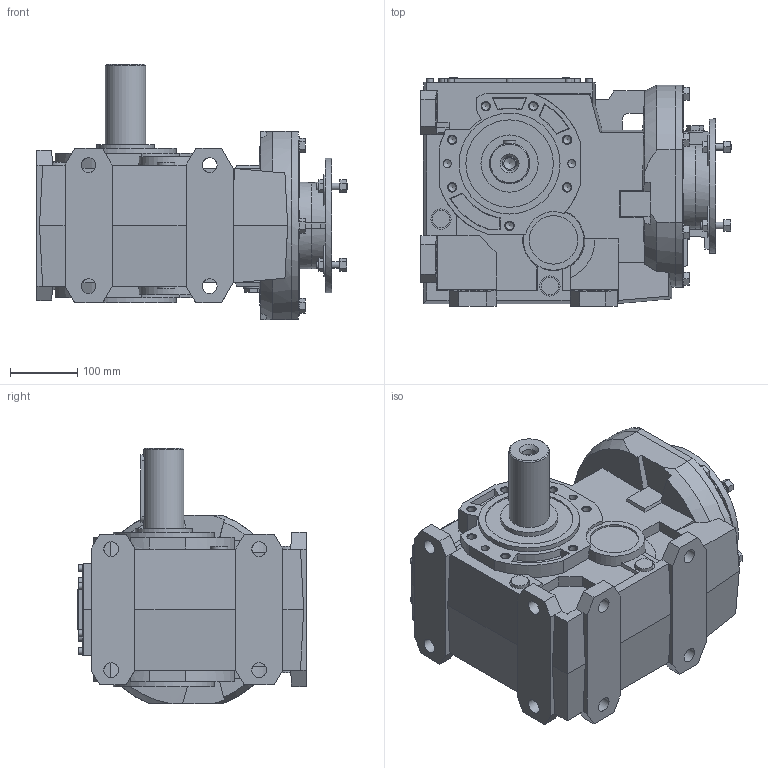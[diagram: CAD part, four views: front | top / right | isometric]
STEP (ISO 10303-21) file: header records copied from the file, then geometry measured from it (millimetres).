
FILE_DESCRIPTION(/* description */ ('STEP AP203'),/* implementation_level */ '2;1');
FILE_NAME(/* name */ 'B123US90_B560x1200000000NO----_---------------',/* time_stamp */ '2025-12-18T02:30:53+01:00',/* author */ ('License CC BY-ND 4.0'),/* organization */ ('CADENAS'),/* preprocessor_version */ 'ST-DEVELOPER v20',/* originating_system */ 'PARTsolutions',/* authorisation */ ' ');
FILE_SCHEMA (('CONFIG_CONTROL_DESIGN'));
Length unit declared in the file: millimetre
Products named in the file (5): B123US90 B560x1200000000NO----(---------------); 123-U-85; 123-60x120-S; 123-B-200x24(90 B51); B123-200x24
Assembly tree (4 placements, depth 2):
  B123US90 B560x1200000000NO----(---------------)
    123-U-85
    123-60x120-S
    123-B-200x24(90 B51)
    B123-200x24
Bounding box: 461.5 x 340 x 380 mm (x, y, z)
Volume: 24166582 mm3; surface area: 1113487.1 mm2
Topology: 4 solids, 4 shells, 753 faces, 1961 edges, 1292 vertices
Faces by surface type: plane 548, cylinder 141, cone 63, torus 1
Full cylindrical faces by diameter (mm): 9.1 x3, 10 x18, 11.835 x14, 12 x4, 17.294 x1, 21 x1, 22 x8, 26 x3, 28 x2, 30 x5, 32 x1, 39.5 x1, 60 x1, 72 x2, 85 x2, 130 x3, 150 x2, 200 x1, 250 x2
Entity records: 22305 total; most frequent: CARTESIAN_POINT 4137, DIRECTION 3650, ORIENTED_EDGE 3606, EDGE_CURVE 1803, LINE 1280, VECTOR 1280, VERTEX_POINT 1268, AXIS2_PLACEMENT_3D 1185
